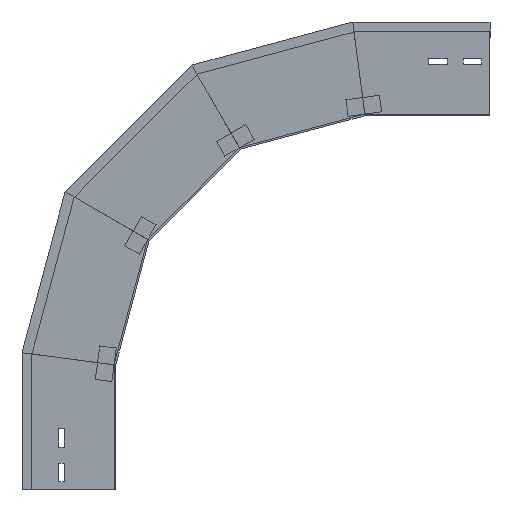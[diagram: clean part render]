
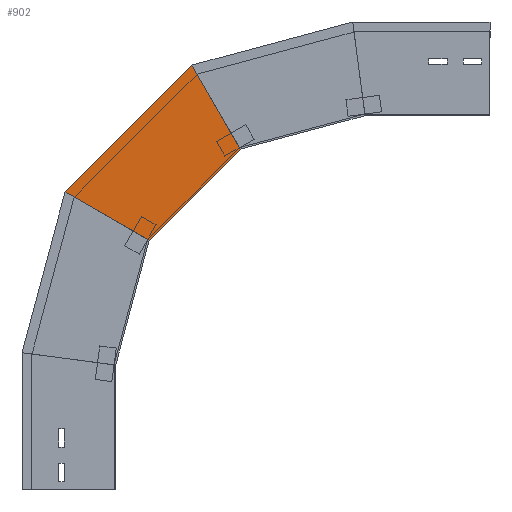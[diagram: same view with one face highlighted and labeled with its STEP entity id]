
A CAD part, left-side view. The second image highlights one B-rep face of the part: STEP entity #902.
In plain terms, the highlighted planar face has unit normal (-1, 0, 0) as drawn and (1, 0, 0) by its records, which use the part's own axes.
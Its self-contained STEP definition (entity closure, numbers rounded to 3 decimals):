
#5 = CARTESIAN_POINT ( 'NONE',  ( 0., -16.599, 276.201 ) ) ;
#63 = CARTESIAN_POINT ( 'NONE',  ( 0., 60.748, 357.953 ) ) ;
#113 = LINE ( 'NONE', #1310, #791 ) ;
#199 = VECTOR ( 'NONE', #1736, 1000. ) ;
#264 = FACE_OUTER_BOUND ( 'NONE', #1412, .T. ) ;
#324 = CARTESIAN_POINT ( 'NONE',  ( 0., -174.081, 367.123 ) ) ;
#331 = AXIS2_PLACEMENT_3D ( 'NONE', #5, #883, #1173 ) ;
#451 = LINE ( 'NONE', #1046, #461 ) ;
#455 = LINE ( 'NONE', #849, #199 ) ;
#461 = VECTOR ( 'NONE', #1643, 1000. ) ;
#501 = DIRECTION ( 'NONE',  ( 0., -0.5, -0.866 ) ) ;
#561 = EDGE_CURVE ( 'NONE', #818, #628, #455, .T. ) ;
#628 = VERTEX_POINT ( 'NONE', #1313 ) ;
#650 = CARTESIAN_POINT ( 'NONE',  ( 0., -40.117, 299.719 ) ) ;
#709 = EDGE_CURVE ( 'NONE', #1809, #628, #1640, .T. ) ;
#714 = PLANE ( 'NONE',  #331 ) ;
#783 = CARTESIAN_POINT ( 'NONE',  ( 0., -91.484, 510.185 ) ) ;
#791 = VECTOR ( 'NONE', #1283, 1000. ) ;
#818 = VERTEX_POINT ( 'NONE', #650 ) ;
#849 = CARTESIAN_POINT ( 'NONE',  ( 0., -16.599, 276.201 ) ) ;
#883 = DIRECTION ( 'NONE',  ( 1., 0., 0. ) ) ;
#902 = ADVANCED_FACE ( 'NONE', ( #264 ), #714, .T. ) ;
#1007 = EDGE_CURVE ( 'NONE', #1599, #1809, #113, .T. ) ;
#1046 = CARTESIAN_POINT ( 'NONE',  ( 0., -78.533, 277.539 ) ) ;
#1079 = ORIENTED_EDGE ( 'NONE', *, *, #1312, .F. ) ;
#1173 = DIRECTION ( 'NONE',  ( 0., 0., -1. ) ) ;
#1283 = DIRECTION ( 'NONE',  ( 0., -0.707, 0.707 ) ) ;
#1301 = ORIENTED_EDGE ( 'NONE', *, *, #709, .T. ) ;
#1310 = CARTESIAN_POINT ( 'NONE',  ( 0., 62.95, 355.751 ) ) ;
#1312 = EDGE_CURVE ( 'NONE', #1599, #818, #451, .T. ) ;
#1313 = CARTESIAN_POINT ( 'NONE',  ( 0., -149.719, 409.32 ) ) ;
#1412 = EDGE_LOOP ( 'NONE', ( #1495, #1301, #1639, #1079 ) ) ;
#1495 = ORIENTED_EDGE ( 'NONE', *, *, #1007, .T. ) ;
#1599 = VERTEX_POINT ( 'NONE', #63 ) ;
#1639 = ORIENTED_EDGE ( 'NONE', *, *, #561, .F. ) ;
#1640 = LINE ( 'NONE', #324, #1687 ) ;
#1643 = DIRECTION ( 'NONE',  ( 0., -0.866, -0.5 ) ) ;
#1687 = VECTOR ( 'NONE', #501, 1000. ) ;
#1736 = DIRECTION ( 'NONE',  ( 0., -0.707, 0.707 ) ) ;
#1809 = VERTEX_POINT ( 'NONE', #783 ) ;
